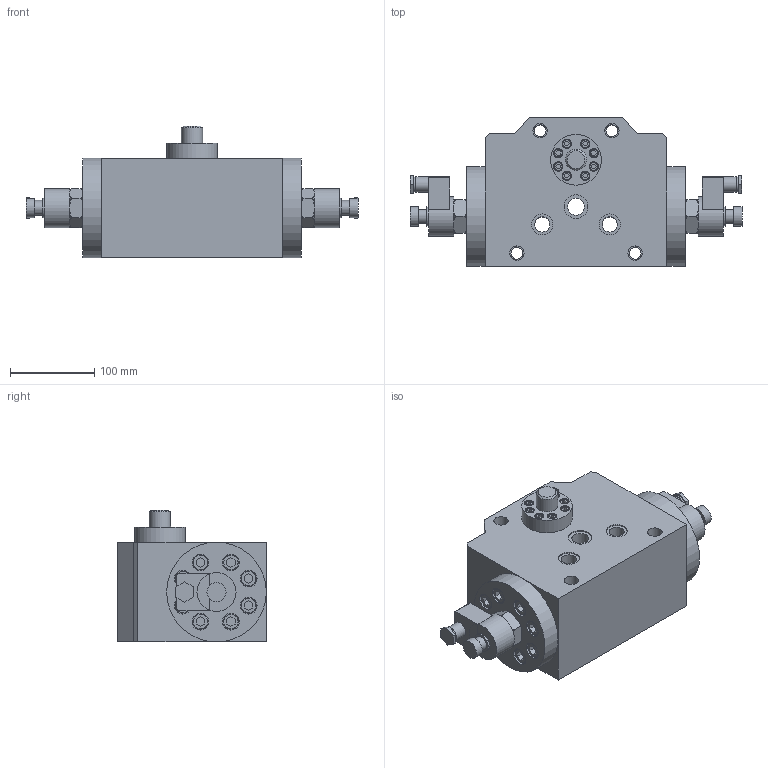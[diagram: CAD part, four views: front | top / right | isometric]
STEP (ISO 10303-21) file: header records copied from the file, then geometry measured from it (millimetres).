
FILE_DESCRIPTION(/* description */ (''),/* implementation_level */ '2;1');
FILE_NAME(/* name */ '数字8.prt.stp',/* time_stamp */ '2023-05-03T15:18:56+08:00',/* author */ (''),/* organization */ (''),/* preprocessor_version */ 'ST-DEVELOPER v16.7',/* originating_system */ 'SIEMENS PLM Software NX 12.0',/* authorisation */ '');
FILE_SCHEMA (('AUTOMOTIVE_DESIGN { 1 0 10303 214 3 1 1 1 }'));
Length unit declared in the file: millimetre
Products named in the file (1): 数字8
Bounding box: 393.03 x 176 x 156 mm (x, y, z)
Volume: 4863276.7 mm3; surface area: 446520.1 mm2
Topology: 51 solids, 51 shells, 812 faces, 1928 edges, 1274 vertices
Faces by surface type: plane 477, cylinder 210, torus 72, cone 50, bspline 3
Full cylindrical faces by diameter (mm): 5 x8, 6 x8, 7 x8, 10 x8, 10.2 x16, 11 x8, 12 x16, 14 x20, 16 x2, 16.666 x2, 17 x4, 18 x22, 20 x17, 22.666 x4, 25 x2, 25.101 x2, 28 x1, 38 x1, 46.188 x2, 60 x1, 118 x2
Entity records: 25302 total; most frequent: CARTESIAN_POINT 7339, DIRECTION 3631, ORIENTED_EDGE 3126, EDGE_CURVE 1563, AXIS2_PLACEMENT_3D 1370, EDGE_LOOP 1240, VERTEX_POINT 1186, LINE 891
